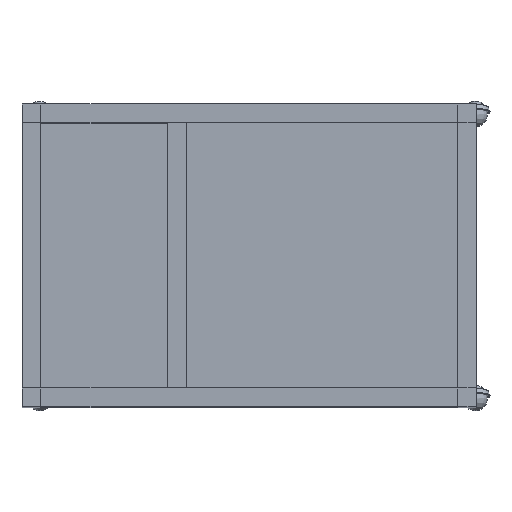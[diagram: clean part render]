
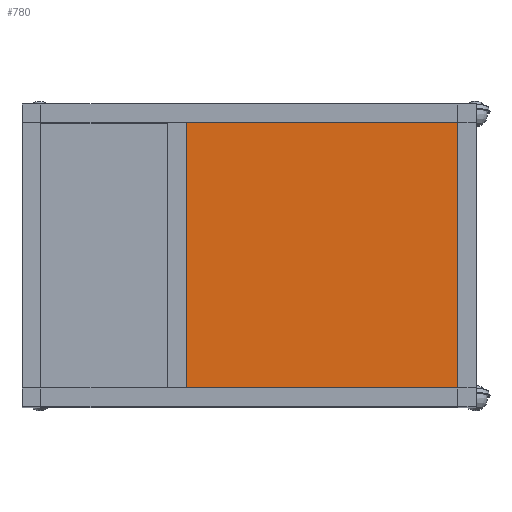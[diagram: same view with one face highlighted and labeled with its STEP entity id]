
A CAD part, top view. The second image highlights one B-rep face of the part: STEP entity #780.
In plain terms, the highlighted planar face has unit normal (0, 0, 1).
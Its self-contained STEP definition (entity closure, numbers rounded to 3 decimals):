
#335=B_SPLINE_CURVE_WITH_KNOTS('',1,(#8921,#8922),.UNSPECIFIED.,.F.,.F.,
(2,2),(0.,350.),.UNSPECIFIED.);
#336=B_SPLINE_CURVE_WITH_KNOTS('',1,(#8923,#8924),.UNSPECIFIED.,.F.,.F.,
(2,2),(0.,367.),.UNSPECIFIED.);
#337=B_SPLINE_CURVE_WITH_KNOTS('',1,(#8925,#8926),.UNSPECIFIED.,.F.,.F.,
(2,2),(0.,367.),.UNSPECIFIED.);
#338=B_SPLINE_CURVE_WITH_KNOTS('',1,(#8927,#8928),.UNSPECIFIED.,.F.,.F.,
(2,2),(0.,350.),.UNSPECIFIED.);
#780=ADVANCED_FACE('',(#1048),#3764,.T.);
#1048=FACE_OUTER_BOUND('',#1328,.T.);
#1328=EDGE_LOOP('',(#2242,#2243,#2244,#2245));
#2242=ORIENTED_EDGE('',*,*,#2949,.T.);
#2243=ORIENTED_EDGE('',*,*,#2948,.F.);
#2244=ORIENTED_EDGE('',*,*,#2950,.T.);
#2245=ORIENTED_EDGE('',*,*,#2951,.T.);
#2948=EDGE_CURVE('',#3543,#3542,#335,.T.);
#2949=EDGE_CURVE('',#3544,#3542,#336,.T.);
#2950=EDGE_CURVE('',#3543,#3545,#337,.T.);
#2951=EDGE_CURVE('',#3545,#3544,#338,.T.);
#3542=VERTEX_POINT('',#8881);
#3543=VERTEX_POINT('',#8882);
#3544=VERTEX_POINT('',#8883);
#3545=VERTEX_POINT('',#8884);
#3764=PLANE('',#4068);
#4068=AXIS2_PLACEMENT_3D('',#8865,#4288,$);
#4288=DIRECTION('',(0.,0.,1.));
#8865=CARTESIAN_POINT('',(-133.287,-210.12,779.));
#8881=CARTESIAN_POINT('',(270.533,-175.,779.));
#8882=CARTESIAN_POINT('',(270.533,175.,779.));
#8883=CARTESIAN_POINT('',(-96.467,-175.,779.));
#8884=CARTESIAN_POINT('',(-96.467,175.,779.));
#8921=CARTESIAN_POINT('',(270.533,175.,779.));
#8922=CARTESIAN_POINT('',(270.533,-175.,779.));
#8923=CARTESIAN_POINT('',(-96.467,-175.,779.));
#8924=CARTESIAN_POINT('',(270.533,-175.,779.));
#8925=CARTESIAN_POINT('',(270.533,175.,779.));
#8926=CARTESIAN_POINT('',(-96.467,175.,779.));
#8927=CARTESIAN_POINT('',(-96.467,175.,779.));
#8928=CARTESIAN_POINT('',(-96.467,-175.,779.));
